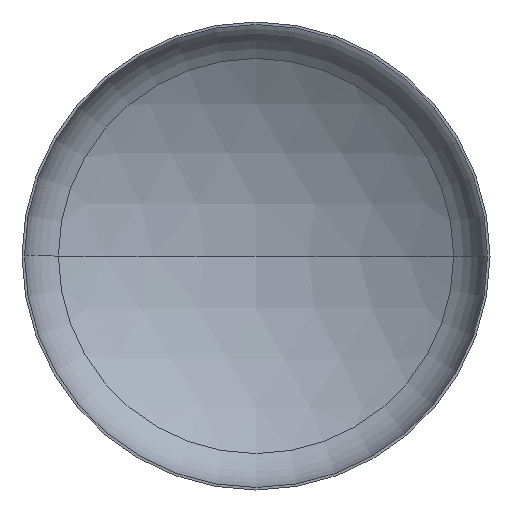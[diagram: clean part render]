
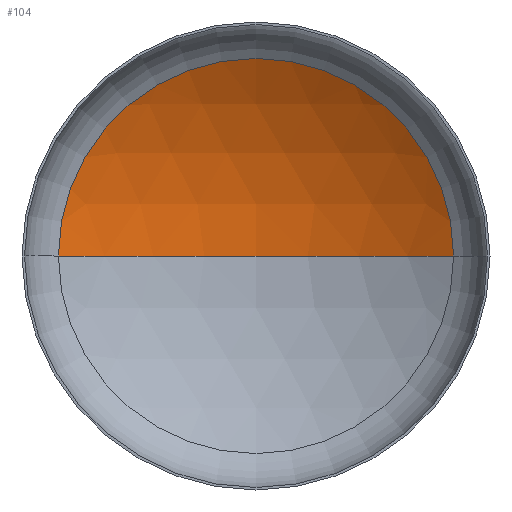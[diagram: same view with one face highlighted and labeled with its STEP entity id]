
A CAD part, front view. The second image highlights one B-rep face of the part: STEP entity #104.
In plain terms, the highlighted spherical face has radius 2240 mm.
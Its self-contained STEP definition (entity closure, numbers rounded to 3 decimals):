
#22 = AXIS2_PLACEMENT_3D ( 'NONE', #138, #160, #289 ) ;
#30 = AXIS2_PLACEMENT_3D ( 'NONE', #146, #149, #272 ) ;
#31 = AXIS2_PLACEMENT_3D ( 'NONE', #286, #283, #264 ) ;
#32 = AXIS2_PLACEMENT_3D ( 'NONE', #360, #282, #279 ) ;
#53 = EDGE_CURVE ( 'NONE', #366, #288, #393, .T. ) ;
#57 = EDGE_CURVE ( 'NONE', #124, #366, #248, .T. ) ;
#62 = EDGE_CURVE ( 'NONE', #124, #288, #315, .T. ) ;
#79 = SPHERICAL_SURFACE ( 'NONE', #22, 2240. ) ;
#80 = ORIENTED_EDGE ( 'NONE', *, *, #53, .T. ) ;
#104 = ADVANCED_FACE ( 'NONE', ( #175 ), #79, .F. ) ;
#124 = VERTEX_POINT ( 'NONE', #210 ) ;
#138 = CARTESIAN_POINT ( 'NONE',  ( 0., -1492.555, 0. ) ) ;
#146 = CARTESIAN_POINT ( 'NONE',  ( 0., -1492.555, 0. ) ) ;
#149 = DIRECTION ( 'NONE',  ( 0., 0., 1. ) ) ;
#160 = DIRECTION ( 'NONE',  ( 0., 0., -1. ) ) ;
#175 = FACE_OUTER_BOUND ( 'NONE', #280, .T. ) ;
#210 = CARTESIAN_POINT ( 'NONE',  ( 0., 747.445, 0. ) ) ;
#248 = CIRCLE ( 'NONE', #31, 2240. ) ;
#264 = DIRECTION ( 'NONE',  ( -1., 0., 0. ) ) ;
#272 = DIRECTION ( 'NONE',  ( 1., 0., 0. ) ) ;
#273 = ORIENTED_EDGE ( 'NONE', *, *, #57, .T. ) ;
#279 = DIRECTION ( 'NONE',  ( 1., 0., 0. ) ) ;
#280 = EDGE_LOOP ( 'NONE', ( #408, #273, #80 ) ) ;
#282 = DIRECTION ( 'NONE',  ( 0., -1., 0. ) ) ;
#283 = DIRECTION ( 'NONE',  ( 0., 0., -1. ) ) ;
#286 = CARTESIAN_POINT ( 'NONE',  ( 0., -1492.555, 0. ) ) ;
#288 = VERTEX_POINT ( 'NONE', #396 ) ;
#289 = DIRECTION ( 'NONE',  ( -1., 0., 0. ) ) ;
#315 = CIRCLE ( 'NONE', #30, 2240. ) ;
#326 = CARTESIAN_POINT ( 'NONE',  ( 1181.878, 410.275, 0. ) ) ;
#360 = CARTESIAN_POINT ( 'NONE',  ( 0., 410.275, 0. ) ) ;
#366 = VERTEX_POINT ( 'NONE', #326 ) ;
#393 = CIRCLE ( 'NONE', #32, 1181.878 ) ;
#396 = CARTESIAN_POINT ( 'NONE',  ( -1181.878, 410.275, 0. ) ) ;
#408 = ORIENTED_EDGE ( 'NONE', *, *, #62, .F. ) ;
